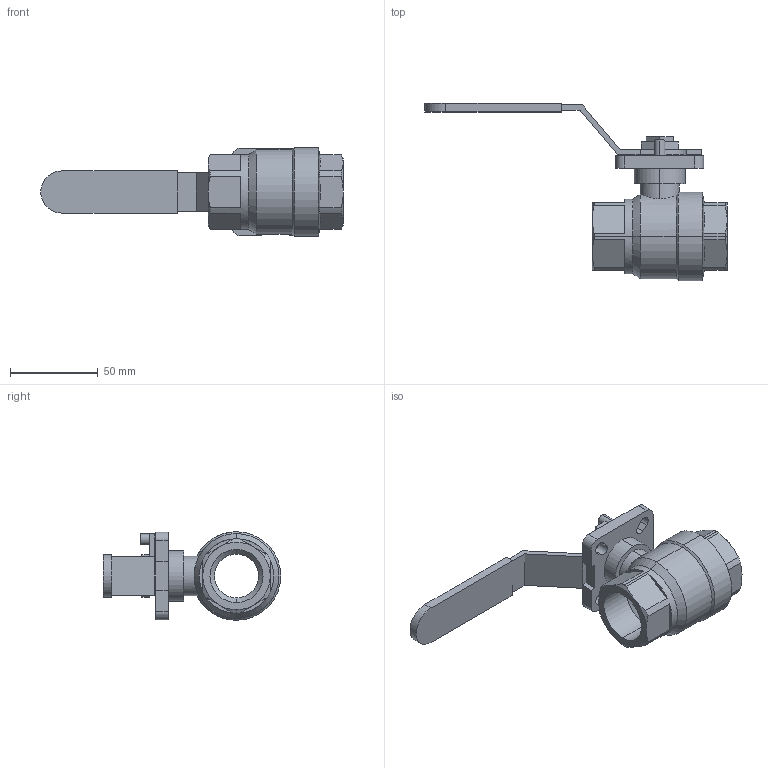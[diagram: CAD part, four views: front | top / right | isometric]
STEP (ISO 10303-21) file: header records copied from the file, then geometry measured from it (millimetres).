
FILE_DESCRIPTION (( 'STEP AP203' ), '1' );
FILE_NAME ('B3.622I025IFVPB0.STEP', '2018-09-28T13:30:07', ( '' ), ( '' ), 'SwSTEP 2.0', 'SolidWorks 2014', '' );
FILE_SCHEMA (( 'CONFIG_CONTROL_DESIGN' ));
Length unit declared in the file: millimetre
Products named in the file (1): B3.622I025IFVPB0
Bounding box: 172.5 x 101.25 x 50.5 mm (x, y, z)
Volume: 116967.2 mm3; surface area: 36494.7 mm2
Topology: 1 solids, 1 shells, 149 faces, 385 edges, 245 vertices
Faces by surface type: plane 80, cylinder 44, cone 25
Entity records: 4816 total; most frequent: CARTESIAN_POINT 1062, ORIENTED_EDGE 770, DIRECTION 761, EDGE_CURVE 385, AXIS2_PLACEMENT_3D 264, VERTEX_POINT 245, LINE 233, VECTOR 233
